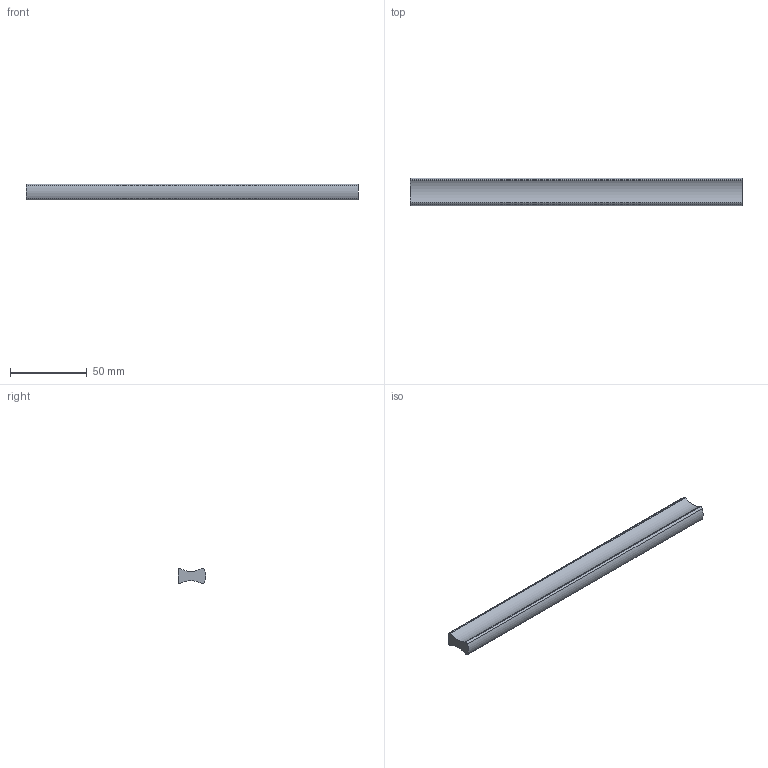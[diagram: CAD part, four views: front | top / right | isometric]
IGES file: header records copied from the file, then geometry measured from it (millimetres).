
Start section: Data from Parasolid IGES Translator 15.0.47, Copyright(c) 2006 Siemens P LM Software. All Rights Reserved.
Global section: file name: 9190438.igs; native system:  By UGS Corp.; preprocessor: XPlus GENERIC/IGES 3.0; author: Noname; organization: Noname; date: 20151216.182228; units: millimetre
Bounding box: 216 x 17.96 x 10 mm (x, y, z)
Surface area: 12337 mm2 (no closed solid volume)
Topology: 0 solids, 0 shells, 21 faces, 90 edges, 84 vertices
Faces by surface type: revolution 14, extrusion 7
